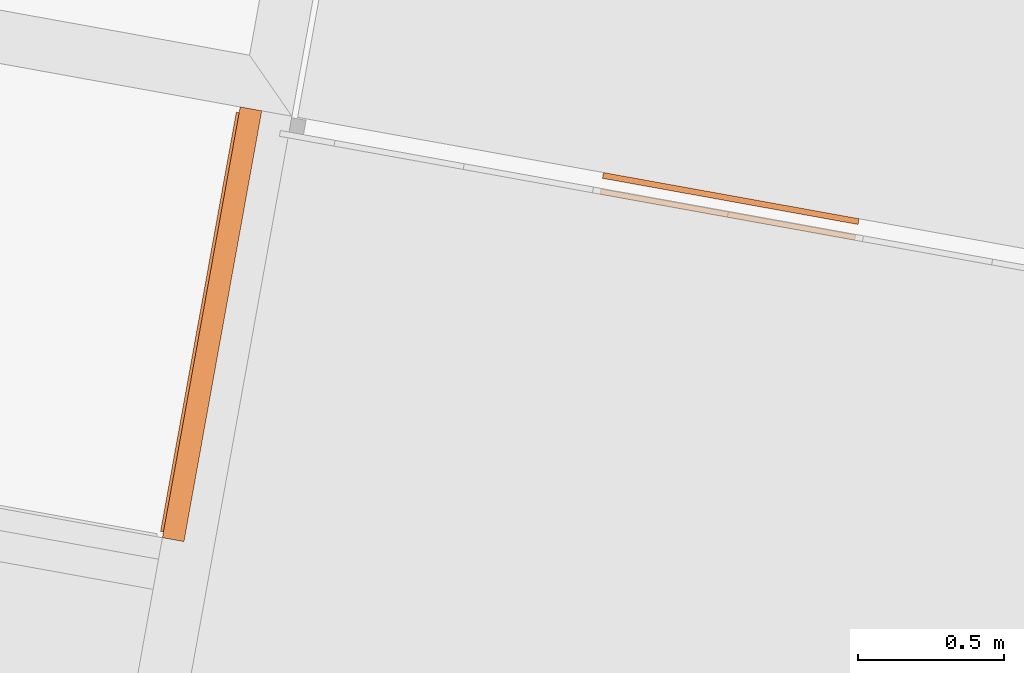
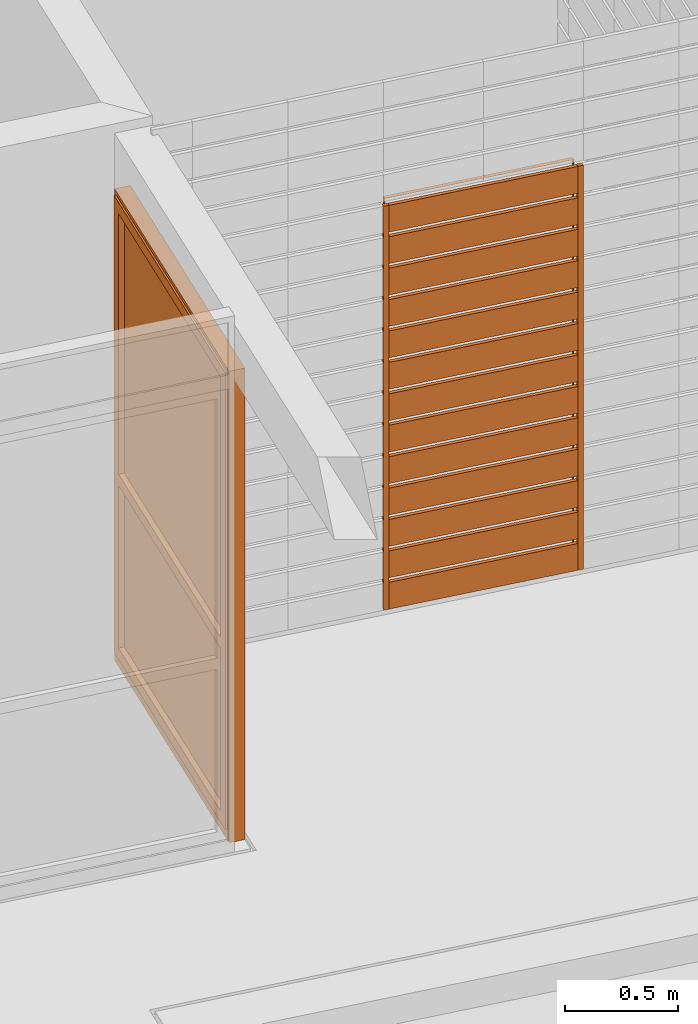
# One storey, part 42 of 52: 3 proxies, 2 elements without a shape of their own.
"""IFC2X3 building model written with IfcOpenShell, lengths in metres."""

import ifcopenshell
import ifcopenshell.guid

model = None  # the IFC model being written
_history = None  # IfcOwnerHistory: only IFC2X3 demands one
_inside = {}  # id of a spatial element -> (the spatial element, [elements in it])
_under = {}  # id of a project, library or spatial element -> (it, [spatial elements below it])
_declared = {}  # id of a project -> (the project, [libraries it declares])
_typed = {}  # id of a type object -> (the type object, [elements of that type])
_made_of = {}  # id of a material, layer set ... -> (it, [elements and type objects made of it])


def new_model(schema):
    """Start an empty IFC model of exactly this schema.

    Asked for "IFC4X3", IfcOpenShell would pick the latest addendum, in which some entities
    have other attributes; the version numbers below select the first issue.
    IFC2X3 requires an IfcOwnerHistory on every rooted entity: one is made here for all.
    """
    global model, _history
    if schema == "IFC4X3":
        model = ifcopenshell.file(schema_version=(4, 3, 0, 0))
    else:
        model = ifcopenshell.file(schema=schema)
    _inside.clear()
    _under.clear()
    _declared.clear()
    _typed.clear()
    _made_of.clear()
    _history = None
    if model.schema == "IFC2X3":
        org = make("IfcOrganization", Name="unknown")
        user = make(
            "IfcPersonAndOrganization",
            ThePerson=make("IfcPerson", FamilyName="unknown"),
            TheOrganization=org,
        )
        app = make(
            "IfcApplication",
            ApplicationDeveloper=org,
            Version="unknown",
            ApplicationFullName="unknown",
            ApplicationIdentifier="unknown",
        )
        _history = make(
            "IfcOwnerHistory",
            OwningUser=user,
            OwningApplication=app,
            ChangeAction="ADDED",
            CreationDate=0,
        )
    return model


def make(cls, **values):
    """One entity of the class cls with the attributes given. An attribute that is None is left unset."""
    return model.create_entity(
        cls, **{name: value for name, value in values.items() if value is not None}
    )


def entity(cls, *values):
    """Any entity or typed value of the class cls, its attributes in the order of the schema. None: left unset."""
    e = model.create_entity(cls)
    for i, value in enumerate(values):
        if value is not None:
            e[i] = value
    return e


def rooted(cls, **values):
    """An entity with a GlobalId (a new one), such as an element, a storey or a relation."""
    return make(cls, GlobalId=ifcopenshell.guid.new(), OwnerHistory=_history, **values)


def si_unit(unit_type, name, prefix=None):
    """IfcSIUnit, for example si_unit("LENGTHUNIT", "METRE", prefix="MILLI")."""
    return make("IfcSIUnit", UnitType=unit_type, Prefix=prefix, Name=name)


def converted_unit(unit_type, name, factor, base, dimensions=None, offset=None):
    """IfcConversionBasedUnit, such as the inch: factor (a typed value) times the base unit."""
    return make(
        "IfcConversionBasedUnit"
        if offset is None
        else "IfcConversionBasedUnitWithOffset",
        ConversionOffset=offset,
        Dimensions=None
        if dimensions is None
        else entity("IfcDimensionalExponents", *dimensions),
        UnitType=unit_type,
        Name=name,
        ConversionFactor=make(
            "IfcMeasureWithUnit", ValueComponent=factor, UnitComponent=base
        ),
    )


def derived_unit(unit_type, elements):
    """IfcDerivedUnit: a product of units, each with its exponent."""
    return make(
        "IfcDerivedUnit",
        Elements=[
            make("IfcDerivedUnitElement", Unit=unit, Exponent=power)
            for unit, power in elements
        ],
        UnitType=unit_type,
    )


def money_unit(currency):
    """IfcMonetaryUnit."""
    return make("IfcMonetaryUnit", Currency=currency)


def assignment(units):
    """IfcUnitAssignment: the units of a project."""
    return None if units is None else make("IfcUnitAssignment", Units=units)


def point(xyz):
    """IfcCartesianPoint."""
    return None if xyz is None else make("IfcCartesianPoint", Coordinates=xyz)


def direction(xyz):
    """IfcDirection."""
    return None if xyz is None else make("IfcDirection", DirectionRatios=xyz)


def frame(location, z_axis=None, x_axis=None):
    """IfcAxis2Placement3D, a coordinate frame: its origin and axes. An axis left out is left unset."""
    return make(
        "IfcAxis2Placement3D",
        Location=point(location),
        Axis=direction(z_axis),
        RefDirection=direction(x_axis),
    )


def origin_with_axes():
    """The frame at (0, 0, 0) with the z axis (0, 0, 1) and the x axis (1, 0, 0) written out."""
    return frame((0.0, 0.0, 0.0), z_axis=(0.0, 0.0, 1.0), x_axis=(1.0, 0.0, 0.0))


def place(relative_to, where):
    """IfcLocalPlacement: puts the frame where relative to a parent placement (None: the world)."""
    return make(
        "IfcLocalPlacement", PlacementRelTo=relative_to, RelativePlacement=where
    )


def context(
    kind, dimensions, precision=None, world=None, true_north=None, identifier=None
):
    """IfcGeometricRepresentationContext, for example the 3D "Model" context."""
    return make(
        "IfcGeometricRepresentationContext",
        ContextIdentifier=identifier,
        ContextType=kind,
        CoordinateSpaceDimension=dimensions,
        Precision=precision,
        WorldCoordinateSystem=world,
        TrueNorth=true_north,
    )


def subcontext(parent, identifier, kind, view, scale=None):
    """IfcGeometricRepresentationSubContext, for example "Body" below "Model"."""
    return make(
        "IfcGeometricRepresentationSubContext",
        ContextIdentifier=identifier,
        ContextType=kind,
        ParentContext=parent,
        TargetScale=scale,
        TargetView=view,
    )


def project(units=None, contexts=None):
    """IfcProject with its units and contexts."""
    return rooted(
        "IfcProject",
        Name="project",
        RepresentationContexts=contexts,
        UnitsInContext=assignment(units),
    )


def spatial(cls, under=None, at=None, **own):
    """A site, building, storey or space (cls), placed at a placement, below another one or the project."""
    s = rooted(cls, ObjectPlacement=at, **own)
    if under is not None:
        _under.setdefault(under.id(), (under, []))[1].append(s)
    return s


def faces_of(points, faces, orient=None, outer=None):
    """IfcFace entities. A face is a list of loops; a loop is a list of indices into points, from 0.

    orient and outer hold one flag for each loop. By default every Orientation is true, the
    first loop of a face is its IfcFaceOuterBound and the others are IfcFaceBound.
    """
    made = []
    for i, loops in enumerate(faces):
        bounds = []
        for j, loop in enumerate(loops):
            is_outer = j == 0 if outer is None else outer[i][j]
            bounds.append(
                make(
                    "IfcFaceOuterBound" if is_outer else "IfcFaceBound",
                    Bound=make("IfcPolyLoop", Polygon=[points[k] for k in loop]),
                    Orientation=True if orient is None else orient[i][j],
                )
            )
        made.append(make("IfcFace", Bounds=bounds))
    return made


def open_shell(faces, orient=None, outer=None):
    """The faces of one IfcOpenShell. surface_model builds it on its shared points."""
    return ("IfcOpenShell", faces, orient, outer)


def faceted_brep(points, faces, orient=None, outer=None, voids=None):
    """IfcFacetedBrep: a solid bounded by flat faces; with voids (closed shells), ...WithVoids."""
    shared = [point(p) for p in points]
    hull = make("IfcClosedShell", CfsFaces=faces_of(shared, faces, orient, outer))
    if voids is None:
        return make("IfcFacetedBrep", Outer=hull)
    return make(
        "IfcFacetedBrepWithVoids",
        Outer=hull,
        Voids=[
            make(cls, CfsFaces=faces_of(shared, fs, o, b)) for cls, fs, o, b in voids
        ],
    )


def surface_model(cls, points, shells):
    """IfcFaceBasedSurfaceModel or IfcShellBasedSurfaceModel (cls): surfaces that need not close."""
    shared = [point(p) for p in points]
    made = [make(c, CfsFaces=faces_of(shared, fs, o, b)) for c, fs, o, b in shells]
    if cls == "IfcFaceBasedSurfaceModel":
        return make(cls, FbsmFaces=made)
    return make(cls, SbsmBoundary=made)


def shape(context_of_items, identifier, shape_type, items):
    """IfcShapeRepresentation: the items that make up one representation, for example the "Body"."""
    return make(
        "IfcShapeRepresentation",
        ContextOfItems=context_of_items,
        RepresentationIdentifier=identifier,
        RepresentationType=shape_type,
        Items=items,
    )


def material(Name=None, Category=None):
    """IfcMaterial."""
    return make("IfcMaterial", Name=Name, Category=Category)


def made_of(thing, what):
    """Note that an element or type object is made of a material, layer set ...; save() writes the relation."""
    if what is not None:
        _made_of.setdefault(what.id(), (what, []))[1].append(thing)
    return thing


def type_object(cls, material=None, **own):
    """A type object (cls), such as IfcWallType, which elements share."""
    return made_of(rooted(cls, **own), material)


def element(
    cls,
    number,
    at=None,
    inside=None,
    cuts=None,
    type_object=None,
    material=None,
    context=None,
    identifier="Body",
    shape_type=None,
    held_by="IfcProductDefinitionShape",
    body=None,
    shapes=None,
    **own,
):
    """One element of the class cls, such as IfcWall. Its Tag is "e" and its number.

    at: its placement. inside: the storey or other place that contains it. cuts: it is an
    opening in that element (IfcRelVoidsElement). A single representation is given by context,
    identifier, shape_type and body (its items); several are given by shapes. held_by: the class
    of the entity that holds the representations. save() writes the other relations.
    """
    e = rooted(cls, Tag="e%d" % number, ObjectPlacement=at, **own)
    if body is not None:
        shapes = [shape(context, identifier, shape_type, body)]
    if shapes is not None:
        e.Representation = make(held_by, Representations=shapes)
    if inside is not None:
        _inside.setdefault(inside.id(), (inside, []))[1].append(e)
    if cuts is not None:
        rooted(
            "IfcRelVoidsElement", RelatingBuildingElement=cuts, RelatedOpeningElement=e
        )
    if type_object is not None:
        _typed.setdefault(type_object.id(), (type_object, []))[1].append(e)
    return made_of(e, material)


def aggregate(whole, parts):
    """IfcRelAggregates: a whole, such as a stair, and the parts it consists of."""
    return rooted("IfcRelAggregates", RelatingObject=whole, RelatedObjects=parts)


def save(model, path):
    """Write the relations noted so far, then the file.

    IfcRelAggregates (storeys below a building ...), IfcRelContainedInSpatialStructure (elements
    in a storey), IfcRelDefinesByType, IfcRelAssociatesMaterial and IfcRelDeclares: one each for
    every whole, place, type object, material and project.
    """
    for whole, parts in _under.values():
        aggregate(whole, parts)
    for where, things in _inside.values():
        rooted(
            "IfcRelContainedInSpatialStructure",
            RelatedElements=things,
            RelatingStructure=where,
        )
    for kind, things in _typed.values():
        rooted("IfcRelDefinesByType", RelatedObjects=things, RelatingType=kind)
    for what, things in _made_of.values():
        rooted("IfcRelAssociatesMaterial", RelatedObjects=things, RelatingMaterial=what)
    for by, libraries in _declared.values():
        rooted("IfcRelDeclares", RelatingContext=by, RelatedDefinitions=libraries)
    model.write(path)


model = new_model("IFC2X3")

# Units and contexts
model_context = context("Model", 3, precision=1e-05, world=origin_with_axes(), true_north=direction((0.0, 1.0)))
body_context = subcontext(model_context, "Body", "Model", "MODEL_VIEW")
ifc_project = project(units=[si_unit("LENGTHUNIT", "METRE"), si_unit("AREAUNIT", "SQUARE_METRE"), si_unit("VOLUMEUNIT", "CUBIC_METRE"), converted_unit("PLANEANGLEUNIT", "DEGREE", entity("IfcPlaneAngleMeasure", 0.0174532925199), si_unit("PLANEANGLEUNIT", "RADIAN"), dimensions=[0, 0, 0, 0, 0, 0, 0]), money_unit("CHF"), converted_unit("TIMEUNIT", "Year", entity("IfcTimeMeasure", 31556926.0), si_unit("TIMEUNIT", "SECOND"), dimensions=[0, 0, 1, 0, 0, 0, 0]), si_unit("MASSUNIT", "GRAM", prefix="KILO"), si_unit("THERMODYNAMICTEMPERATUREUNIT", "DEGREE_CELSIUS"), si_unit("LUMINOUSINTENSITYUNIT", "LUMEN"), si_unit("ENERGYUNIT", "JOULE", prefix="MEGA"), derived_unit("THERMALCONDUCTANCEUNIT", [(si_unit("POWERUNIT", "WATT"), 1), (si_unit("LENGTHUNIT", "METRE"), -1), (si_unit("THERMODYNAMICTEMPERATUREUNIT", "KELVIN"), -1)]), derived_unit("SPECIFICHEATCAPACITYUNIT", [(si_unit("ENERGYUNIT", "JOULE"), 1), (si_unit("MASSUNIT", "GRAM", prefix="KILO"), -1), (si_unit("THERMODYNAMICTEMPERATUREUNIT", "KELVIN"), -1)]), derived_unit("MASSDENSITYUNIT", [(si_unit("MASSUNIT", "GRAM", prefix="KILO"), 1), (si_unit("VOLUMEUNIT", "CUBIC_METRE"), -1)])], contexts=[model_context])

# Site, building, storey
site_placement = place(None, frame((0.0, 0.0, 0.0), z_axis=(0.0, 0.0, 1.0), x_axis=(-0.177771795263, -0.984071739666, 0.0)))
site = spatial("IfcSite", under=ifc_project, at=site_placement, Name="Site", CompositionType="ELEMENT")
building_placement = place(site_placement, origin_with_axes())
building = spatial("IfcBuilding", under=site, at=building_placement, Name="Bâtiment", CompositionType="ELEMENT")
storey_placement = place(building_placement, frame((0.0, 0.0, 3.2), z_axis=(0.0, 0.0, 1.0), x_axis=(1.0, 0.0, 0.0)))
storey = spatial("IfcBuildingStorey", under=building, at=storey_placement, Name="R+1", CompositionType="ELEMENT", Elevation=3.2)

# Proxy
ifc_material_1 = material(Name="Matériau de construction IFC")
building_element_proxy_type_1 = type_object("IfcBuildingElementProxyType", Name="Fenêtre verticale à châssis multiples 21", PredefinedType="NOTDEFINED")
proxy_1_placement = place(storey_placement, frame((142.794840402, -152.372150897, 0.0), z_axis=(0.0, 0.0, 1.0), x_axis=(-1.0, -4.14625823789e-08, 0.0)))
element("IfcBuildingElementProxy", 1, at=proxy_1_placement, inside=storey, type_object=building_element_proxy_type_1, material=ifc_material_1, Name="Baie terrasse_ATTENTE", context=body_context, shape_type="SurfaceModel", body=[
    faceted_brep([(1.48000000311, 0.0749999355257, 2.52), (1.48000000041, 0.00999993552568, 2.52), (1.47000000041, 0.00999993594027, 2.52), (1.47, -6.40597193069e-08, 2.52), (1.5, -6.53035954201e-08, 2.52), (1.50000000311, 0.0749999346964, 2.52), (1.48000000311, 0.0749999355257, 0.07), (1.48000000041, 0.00999993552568, 0.07), (1.47000000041, 0.00999993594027, 0.07), (1.47, -6.40597193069e-08, 0.07), (1.5, -6.53035954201e-08, 0.07), (1.50000000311, 0.0749999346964, 0.07)], [[[0, 1, 2, 3, 4, 5]], [[1, 0, 6, 7]], [[8, 2, 1, 7]], [[2, 8, 9, 3]], [[4, 3, 9, 10]], [[5, 4, 10, 11]], [[6, 0, 5, 11]], [[7, 6, 11, 10, 9, 8]]]),
    faceted_brep([(0.0300000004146, 0.00999999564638, 2.52), (0.0200000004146, 0.00999999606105, 2.52), (0.0200000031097, 0.074999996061, 2.52), (3.1096760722e-09, 0.0749999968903, 2.52), (0.0, -3.10970449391e-09, 2.52), (0.03, -4.35360902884e-09, 2.52), (0.0300000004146, 0.00999999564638, 0.07), (0.0200000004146, 0.00999999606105, 0.07), (0.0200000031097, 0.074999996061, 0.07), (3.1096760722e-09, 0.0749999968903, 0.07), (0.0, -3.10970449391e-09, 0.07), (0.03, -4.35360902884e-09, 0.07)], [[[0, 1, 2, 3, 4, 5]], [[1, 0, 6, 7]], [[8, 2, 1, 7]], [[2, 8, 9, 3]], [[9, 10, 4, 3]], [[10, 11, 5, 4]], [[6, 0, 5, 11]], [[7, 6, 11, 10, 9, 8]]]),
    faceted_brep([(1.48000000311, 0.0749999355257, 2.52), (1.48000000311, 0.0749999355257, 2.53), (0.0200000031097, 0.074999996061, 2.53), (0.0200000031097, 0.074999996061, 2.52), (3.1096760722e-09, 0.0749999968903, 2.52), (3.1096760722e-09, 0.0749999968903, 2.55), (1.50000000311, 0.0749999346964, 2.55), (1.50000000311, 0.0749999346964, 2.52), (1.48000000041, 0.00999993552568, 2.52), (1.48000000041, 0.00999993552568, 2.53), (0.0200000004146, 0.00999999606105, 2.53), (0.0200000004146, 0.00999999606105, 2.52), (0.0300000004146, 0.00999999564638, 2.52), (0.03, -4.35360902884e-09, 2.52), (0.0, -3.10970449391e-09, 2.52), (0.0, -3.10970449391e-09, 2.55), (1.5, -6.53035954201e-08, 2.55), (1.5, -6.53035954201e-08, 2.52), (1.47, -6.40597193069e-08, 2.52), (1.47000000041, 0.00999993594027, 2.52)], [[[0, 1, 2, 3, 4, 5, 6, 7]], [[1, 0, 8, 9]], [[2, 1, 9, 10]], [[3, 2, 10, 11]], [[11, 12, 13, 14, 4, 3]], [[4, 14, 15, 5]], [[5, 15, 16, 6]], [[6, 16, 17, 7]], [[8, 0, 7, 17, 18, 19]], [[12, 11, 10, 9, 8, 19]], [[12, 19, 18, 13]], [[14, 13, 18, 17, 16, 15]]]),
    faceted_brep([(0.0300000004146, 0.00999999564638, 0.07), (0.0200000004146, 0.00999999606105, 0.07), (0.0200000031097, 0.074999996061, 0.07), (3.1096760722e-09, 0.0749999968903, 0.07), (0.0, -3.10970449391e-09, 0.07), (0.03, -4.35360902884e-09, 0.07), (1.47000000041, 0.00999993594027, 0.07), (1.48000000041, 0.00999993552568, 0.07), (1.48000000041, 0.00999993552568, 0.06), (0.0200000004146, 0.00999999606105, 0.06), (0.0200000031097, 0.074999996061, 0.06), (1.48000000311, 0.0749999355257, 0.06), (1.48000000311, 0.0749999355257, 0.07), (1.50000000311, 0.0749999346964, 0.07), (1.50000000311, 0.0749999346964, 0.0), (3.1096760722e-09, 0.0749999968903, 0.0), (0.0, -3.10970449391e-09, 0.0), (1.5, -6.53035954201e-08, 0.07), (1.47, -6.40597193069e-08, 0.07), (1.5, -6.53035954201e-08, 0.0)], [[[0, 1, 2, 3, 4, 5]], [[1, 0, 6, 7, 8, 9]], [[10, 2, 1, 9]], [[11, 12, 13, 14, 15, 3, 2, 10]], [[15, 16, 4, 3]], [[17, 18, 5, 4, 16, 19]], [[6, 0, 5, 18]], [[7, 6, 18, 17, 13, 12]], [[7, 12, 11, 8]], [[11, 10, 9, 8]], [[13, 17, 19, 14]], [[14, 19, 16, 15]]]),
    faceted_brep([(1.42000000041, 0.00999993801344, 1.0), (1.42000000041, 0.00999993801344, 1.06), (1.42000000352, 0.0849999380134, 1.06), (1.42000000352, 0.0849999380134, 1.0), (1.42000000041, 0.00999993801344, 0.12), (1.48000000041, 0.00999993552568, 0.12), (1.48000000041, 0.00999993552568, 2.47), (1.42000000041, 0.00999993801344, 2.47), (1.42000000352, 0.0849999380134, 2.47), (1.48000000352, 0.0849999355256, 2.47), (1.48000000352, 0.0849999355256, 0.12), (1.42000000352, 0.0849999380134, 0.12)], [[[0, 1, 2, 3]], [[0, 4, 5, 6, 7, 1]], [[1, 7, 8, 2]], [[3, 2, 8, 9, 10, 11]], [[4, 0, 3, 11]], [[5, 4, 11, 10]], [[6, 5, 10, 9]], [[7, 6, 9, 8]]]),
    faceted_brep([(0.0800000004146, 0.0099999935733, 0.12), (0.0200000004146, 0.00999999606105, 0.12), (0.0200000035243, 0.084999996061, 0.12), (0.0800000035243, 0.0849999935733, 0.12), (0.0800000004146, 0.0099999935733, 1.0), (0.0800000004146, 0.0099999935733, 1.06), (0.0800000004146, 0.0099999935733, 2.47), (0.0200000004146, 0.00999999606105, 2.47), (0.0200000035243, 0.084999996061, 2.47), (0.0800000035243, 0.0849999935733, 2.47), (0.0800000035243, 0.0849999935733, 1.06), (0.0800000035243, 0.0849999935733, 1.0)], [[[0, 1, 2, 3]], [[0, 4, 5, 6, 7, 1]], [[1, 7, 8, 2]], [[3, 2, 8, 9, 10, 11]], [[4, 0, 3, 11]], [[5, 4, 11, 10]], [[6, 5, 10, 9]], [[7, 6, 9, 8]]]),
    faceted_brep([(0.0200000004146, 0.00999999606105, 0.06), (0.0200000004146, 0.00999999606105, 0.12), (0.0200000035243, 0.084999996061, 0.12), (0.0200000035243, 0.084999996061, 0.06), (1.48000000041, 0.00999993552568, 0.06), (1.48000000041, 0.00999993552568, 0.12), (1.42000000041, 0.00999993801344, 0.12), (0.0800000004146, 0.0099999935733, 0.12), (0.0800000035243, 0.0849999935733, 0.12), (1.42000000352, 0.0849999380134, 0.12), (1.48000000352, 0.0849999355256, 0.12), (1.48000000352, 0.0849999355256, 0.06)], [[[0, 1, 2, 3]], [[0, 4, 5, 6, 7, 1]], [[1, 7, 8, 2]], [[3, 2, 8, 9, 10, 11]], [[4, 0, 3, 11]], [[5, 4, 11, 10]], [[6, 5, 10, 9]], [[7, 6, 9, 8]]]),
    faceted_brep([(1.48000000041, 0.00999993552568, 2.53), (1.48000000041, 0.00999993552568, 2.47), (1.48000000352, 0.0849999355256, 2.47), (1.48000000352, 0.0849999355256, 2.53), (0.0200000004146, 0.00999999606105, 2.53), (0.0200000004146, 0.00999999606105, 2.47), (0.0800000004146, 0.0099999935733, 2.47), (1.42000000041, 0.00999993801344, 2.47), (1.42000000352, 0.0849999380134, 2.47), (0.0800000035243, 0.0849999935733, 2.47), (0.0200000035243, 0.084999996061, 2.47), (0.0200000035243, 0.084999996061, 2.53)], [[[0, 1, 2, 3]], [[0, 4, 5, 6, 7, 1]], [[1, 7, 8, 2]], [[3, 2, 8, 9, 10, 11]], [[4, 0, 3, 11]], [[5, 4, 11, 10]], [[6, 5, 10, 9]], [[7, 6, 9, 8]]]),
    faceted_brep([(0.0800000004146, 0.0099999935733, 1.0), (0.0800000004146, 0.0099999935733, 1.06), (0.0800000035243, 0.0849999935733, 1.06), (0.0800000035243, 0.0849999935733, 1.0), (1.42000000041, 0.00999993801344, 1.0), (1.42000000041, 0.00999993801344, 1.06), (1.42000000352, 0.0849999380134, 1.06), (1.42000000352, 0.0849999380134, 1.0)], [[[0, 1, 2, 3]], [[0, 4, 5, 1]], [[1, 5, 6, 2]], [[3, 2, 6, 7]], [[4, 0, 3, 7]], [[5, 4, 7, 6]]]),
    surface_model("IfcShellBasedSurfaceModel", [(1.42000000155, 0.0374999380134, 1.06), (1.42000000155, 0.0374999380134, 2.47), (0.0800000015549, 0.0374999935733, 2.47), (0.0800000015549, 0.0374999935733, 1.06)], [open_shell([[[0, 1, 2, 3]]])]),
    surface_model("IfcShellBasedSurfaceModel", [(1.42000000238, 0.0574999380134, 1.06), (0.0800000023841, 0.0574999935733, 1.06), (0.0800000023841, 0.0574999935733, 2.47), (1.42000000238, 0.0574999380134, 2.47)], [open_shell([[[0, 1, 2, 3]]])]),
    surface_model("IfcShellBasedSurfaceModel", [(1.42000000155, 0.0374999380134, 0.12), (1.42000000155, 0.0374999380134, 1.0), (0.0800000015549, 0.0374999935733, 1.0), (0.0800000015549, 0.0374999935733, 0.12)], [open_shell([[[0, 1, 2, 3]]])]),
    surface_model("IfcShellBasedSurfaceModel", [(1.42000000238, 0.0574999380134, 0.12), (0.0800000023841, 0.0574999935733, 0.12), (0.0800000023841, 0.0574999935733, 1.0), (1.42000000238, 0.0574999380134, 1.0)], [open_shell([[[0, 1, 2, 3]]])]),
])

# Curtain wall, proxies
curtain_wall_type = type_object("IfcCurtainWallType", Name="Type de mur-rideau", PredefinedType="NOTDEFINED")
curtain_wall_placement = place(storey_placement, frame((0.0, 0.0, -3.2), z_axis=(0.0, 0.0, 1.0), x_axis=(1.0, 0.0, 0.0)))
curtain_wall = element("IfcCurtainWall", 2, at=curtain_wall_placement, inside=storey, type_object=curtain_wall_type, Name="pare-vue CTA")
building_element_proxy_type_2 = type_object("IfcBuildingElementProxyType", Name="470 x 170 x 20", PredefinedType="NOTDEFINED")
proxy_2_placement = place(curtain_wall_placement, origin_with_axes())
proxy_2 = element("IfcBuildingElementProxy", 3, at=proxy_2_placement, type_object=building_element_proxy_type_2, Name="Panel-Main-847")
aggregate(curtain_wall, [proxy_2])
building_element_proxy_type_3 = type_object("IfcBuildingElementProxyType", Name="Elément Modèle 215", PredefinedType="NOTDEFINED")
proxy_3_placement = place(proxy_2_placement, frame((141.35984123, -150.737034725, 4.3175), z_axis=(0.0, 0.0, 1.0), x_axis=(-4.03763638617e-09, 1.0, 0.0)))
proxy_3 = element("IfcBuildingElementProxy", 4, at=proxy_3_placement, type_object=building_element_proxy_type_3, material=ifc_material_1, Name="MOBILIER-001", context=body_context, shape_type="SurfaceModel", body=[
    faceted_brep([(-0.444999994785, 0.065, -1.09249998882), (-0.444999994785, 0.045, -1.09249998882), (-0.444999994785, 0.045, 1.09249998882), (-0.444999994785, 0.065, 1.09249998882), (-0.443999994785, 0.065, -1.09249998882), (-0.443999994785, 0.045, -1.09249998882), (-0.443999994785, 0.045, 1.09149998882), (-0.443999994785, 0.065, 1.09149998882)], [[[0, 1, 2, 3]], [[4, 5, 1, 0]], [[1, 5, 6, 2]], [[3, 2, 6, 7]], [[0, 3, 7, 4]], [[7, 6, 5, 4]]]),
    faceted_brep([(0.44500001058, 0.065, 1.09249998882), (0.44500001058, 0.045, 1.09249998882), (0.44400001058, 0.045, 1.09149998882), (0.44400001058, 0.065, 1.09149998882), (-0.444999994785, 0.065, 1.09249998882), (-0.444999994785, 0.045, 1.09249998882), (-0.443999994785, 0.045, 1.09149998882), (-0.443999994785, 0.065, 1.09149998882)], [[[0, 1, 2, 3]], [[4, 5, 1, 0]], [[1, 5, 6, 2]], [[3, 2, 6, 7]], [[0, 3, 7, 4]], [[7, 6, 5, 4]]]),
    faceted_brep([(0.44500001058, 0.065, -1.09249998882), (0.44500001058, 0.045, -1.09249998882), (0.44400001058, 0.045, -1.09249998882), (0.44400001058, 0.065, -1.09249998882), (0.44500001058, 0.065, 1.09249998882), (0.44500001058, 0.045, 1.09249998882), (0.44400001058, 0.045, 1.09149998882), (0.44400001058, 0.065, 1.09149998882)], [[[0, 1, 2, 3]], [[4, 5, 1, 0]], [[1, 5, 6, 2]], [[3, 2, 6, 7]], [[0, 3, 7, 4]], [[7, 6, 5, 4]]]),
    surface_model("IfcShellBasedSurfaceModel", [(-0.444999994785, 0.045, -1.09249998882), (-0.444999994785, 0.045, 1.09249998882), (-0.443999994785, 0.045, 1.09149998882), (-0.443999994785, 0.045, -1.09249998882)], [open_shell([[[0, 1, 2, 3]]])]),
    surface_model("IfcShellBasedSurfaceModel", [(0.44500001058, 0.045, 1.09249998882), (0.44400001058, 0.045, 1.09149998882), (-0.443999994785, 0.045, 1.09149998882), (-0.444999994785, 0.045, 1.09249998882)], [open_shell([[[0, 1, 2, 3]]])]),
    surface_model("IfcShellBasedSurfaceModel", [(0.44500001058, 0.045, -1.09249998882), (0.44400001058, 0.045, -1.09249998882), (0.44400001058, 0.045, 1.09149998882), (0.44500001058, 0.045, 1.09249998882)], [open_shell([[[0, 1, 2, 3]]])]),
    faceted_brep([(-0.469999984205, 0.00999999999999, -1.09249998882), (-0.469999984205, -0.00999999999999, -1.09249998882), (-0.469999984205, -0.00999999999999, 1.09249998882), (-0.469999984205, 0.00999999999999, 1.09249998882), (-0.444999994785, 0.00999999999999, -1.09249998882), (-0.444999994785, -0.01, -1.09249998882), (-0.444999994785, -0.01, 1.09249998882), (-0.444999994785, 0.00999999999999, 1.09249998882)], [[[0, 1, 2, 3]], [[4, 5, 1, 0]], [[1, 5, 6, 2]], [[3, 2, 6, 7]], [[0, 3, 7, 4]], [[7, 6, 5, 4]]]),
    faceted_brep([(0.47, 0.00999999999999, 1.09249998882), (0.47, -0.00999999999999, 1.09249998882), (0.47, -0.00999999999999, -1.09249998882), (0.47, 0.00999999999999, -1.09249998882), (0.44500001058, 0.00999999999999, 1.09249998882), (0.44500001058, -0.01, 1.09249998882), (0.44500001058, -0.01, -1.09249998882), (0.44500001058, 0.00999999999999, -1.09249998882)], [[[0, 1, 2, 3]], [[4, 5, 1, 0]], [[1, 5, 6, 2]], [[3, 2, 6, 7]], [[0, 3, 7, 4]], [[7, 6, 5, 4]]]),
])
ifc_material_2 = material(Name="Bois - Equarri 02")
building_element_proxy_type_4 = type_object("IfcBuildingElementProxyType", Name="Elément Modèle 216", PredefinedType="NOTDEFINED")
proxy_4_placement = place(proxy_2_placement, frame((141.35984123, -150.737034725, 4.3175), z_axis=(0.0, 0.0, 1.0), x_axis=(-4.03763638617e-09, 1.0, 0.0)))
proxy_4 = element("IfcBuildingElementProxy", 5, at=proxy_4_placement, type_object=building_element_proxy_type_4, material=ifc_material_2, Name="Bois - Equarri 02", context=body_context, shape_type="Brep", body=[
    faceted_brep([(0.44400001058, 0.00833333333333, -1.09249998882), (0.44400001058, -0.01, -1.09249998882), (-0.443999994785, -0.01, -1.09249998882), (-0.443999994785, 0.00833333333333, -1.09249998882), (0.44400001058, 0.00833333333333, -0.947566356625), (0.44400001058, -0.01, -0.947566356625), (-0.443999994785, -0.01, -0.947566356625), (-0.443999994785, 0.00833333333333, -0.947566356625)], [[[0, 1, 2, 3]], [[4, 5, 1, 0]], [[1, 5, 6, 2]], [[3, 2, 6, 7]], [[0, 3, 7, 4]], [[7, 6, 5, 4]]]),
    faceted_brep([(0.44400001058, 0.00833333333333, -0.922577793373), (0.44400001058, -0.01, -0.922577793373), (-0.443999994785, -0.01, -0.922577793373), (-0.443999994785, 0.00833333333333, -0.922577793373), (0.44400001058, 0.00833333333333, -0.777644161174), (0.44400001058, -0.01, -0.777644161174), (-0.443999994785, -0.01, -0.777644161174), (-0.443999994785, 0.00833333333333, -0.777644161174)], [[[0, 1, 2, 3]], [[4, 5, 1, 0]], [[1, 5, 6, 2]], [[3, 2, 6, 7]], [[0, 3, 7, 4]], [[7, 6, 5, 4]]]),
    faceted_brep([(0.44400001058, 0.00833333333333, -0.752655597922), (0.44400001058, -0.01, -0.752655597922), (-0.443999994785, -0.01, -0.752655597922), (-0.443999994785, 0.00833333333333, -0.752655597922), (0.44400001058, 0.00833333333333, -0.607721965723), (0.44400001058, -0.01, -0.607721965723), (-0.443999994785, -0.01, -0.607721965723), (-0.443999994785, 0.00833333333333, -0.607721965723)], [[[0, 1, 2, 3]], [[4, 5, 1, 0]], [[1, 5, 6, 2]], [[3, 2, 6, 7]], [[0, 3, 7, 4]], [[7, 6, 5, 4]]]),
    faceted_brep([(0.44400001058, 0.00833333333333, -0.58273340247), (0.44400001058, -0.01, -0.58273340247), (-0.443999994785, -0.01, -0.58273340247), (-0.443999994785, 0.00833333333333, -0.58273340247), (0.44400001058, 0.00833333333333, -0.437799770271), (0.44400001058, -0.01, -0.437799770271), (-0.443999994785, -0.01, -0.437799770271), (-0.443999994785, 0.00833333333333, -0.437799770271)], [[[0, 1, 2, 3]], [[4, 5, 1, 0]], [[1, 5, 6, 2]], [[3, 2, 6, 7]], [[0, 3, 7, 4]], [[7, 6, 5, 4]]]),
    faceted_brep([(0.44400001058, 0.00833333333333, -0.412811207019), (0.44400001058, -0.01, -0.412811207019), (-0.443999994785, -0.01, -0.412811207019), (-0.443999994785, 0.00833333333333, -0.412811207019), (0.44400001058, 0.00833333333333, -0.26787757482), (0.44400001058, -0.01, -0.26787757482), (-0.443999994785, -0.01, -0.26787757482), (-0.443999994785, 0.00833333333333, -0.26787757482)], [[[0, 1, 2, 3]], [[4, 5, 1, 0]], [[1, 5, 6, 2]], [[3, 2, 6, 7]], [[0, 3, 7, 4]], [[7, 6, 5, 4]]]),
    faceted_brep([(0.44400001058, 0.00833333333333, -0.242889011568), (0.44400001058, -0.01, -0.242889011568), (-0.443999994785, -0.01, -0.242889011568), (-0.443999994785, 0.00833333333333, -0.242889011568), (0.44400001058, 0.00833333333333, -0.0979553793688), (0.44400001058, -0.01, -0.0979553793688), (-0.443999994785, -0.01, -0.0979553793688), (-0.443999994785, 0.00833333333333, -0.0979553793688)], [[[0, 1, 2, 3]], [[4, 5, 1, 0]], [[1, 5, 6, 2]], [[3, 2, 6, 7]], [[0, 3, 7, 4]], [[7, 6, 5, 4]]]),
    faceted_brep([(0.44400001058, 0.00833333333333, -0.0729668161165), (0.44400001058, -0.01, -0.0729668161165), (-0.443999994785, -0.01, -0.0729668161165), (-0.443999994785, 0.00833333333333, -0.0729668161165), (0.44400001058, 0.00833333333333, 0.0719668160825), (0.44400001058, -0.01, 0.0719668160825), (-0.443999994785, -0.01, 0.0719668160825), (-0.443999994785, 0.00833333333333, 0.0719668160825)], [[[0, 1, 2, 3]], [[4, 5, 1, 0]], [[1, 5, 6, 2]], [[3, 2, 6, 7]], [[0, 3, 7, 4]], [[7, 6, 5, 4]]]),
    faceted_brep([(0.44400001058, 0.00833333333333, 0.0969553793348), (0.44400001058, -0.01, 0.0969553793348), (-0.443999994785, -0.01, 0.0969553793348), (-0.443999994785, 0.00833333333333, 0.0969553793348), (0.44400001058, 0.00833333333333, 0.241889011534), (0.44400001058, -0.01, 0.241889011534), (-0.443999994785, -0.01, 0.241889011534), (-0.443999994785, 0.00833333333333, 0.241889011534)], [[[0, 1, 2, 3]], [[4, 5, 1, 0]], [[1, 5, 6, 2]], [[3, 2, 6, 7]], [[0, 3, 7, 4]], [[7, 6, 5, 4]]]),
    faceted_brep([(0.44400001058, 0.00833333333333, 0.266877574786), (0.44400001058, -0.01, 0.266877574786), (-0.443999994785, -0.01, 0.266877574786), (-0.443999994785, 0.00833333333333, 0.266877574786), (0.44400001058, 0.00833333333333, 0.411811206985), (0.44400001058, -0.01, 0.411811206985), (-0.443999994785, -0.01, 0.411811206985), (-0.443999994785, 0.00833333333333, 0.411811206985)], [[[0, 1, 2, 3]], [[4, 5, 1, 0]], [[1, 5, 6, 2]], [[3, 2, 6, 7]], [[0, 3, 7, 4]], [[7, 6, 5, 4]]]),
    faceted_brep([(0.44400001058, 0.00833333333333, 0.436799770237), (0.44400001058, -0.01, 0.436799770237), (-0.443999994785, -0.01, 0.436799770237), (-0.443999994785, 0.00833333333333, 0.436799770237), (0.44400001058, 0.00833333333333, 0.581733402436), (0.44400001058, -0.01, 0.581733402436), (-0.443999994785, -0.01, 0.581733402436), (-0.443999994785, 0.00833333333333, 0.581733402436)], [[[0, 1, 2, 3]], [[4, 5, 1, 0]], [[1, 5, 6, 2]], [[3, 2, 6, 7]], [[0, 3, 7, 4]], [[7, 6, 5, 4]]]),
    faceted_brep([(0.44400001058, 0.00833333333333, 0.606721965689), (0.44400001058, -0.01, 0.606721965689), (-0.443999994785, -0.01, 0.606721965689), (-0.443999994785, 0.00833333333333, 0.606721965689), (0.44400001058, 0.00833333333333, 0.751655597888), (0.44400001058, -0.01, 0.751655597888), (-0.443999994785, -0.01, 0.751655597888), (-0.443999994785, 0.00833333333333, 0.751655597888)], [[[0, 1, 2, 3]], [[4, 5, 1, 0]], [[1, 5, 6, 2]], [[3, 2, 6, 7]], [[0, 3, 7, 4]], [[7, 6, 5, 4]]]),
    faceted_brep([(0.44400001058, 0.00833333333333, 0.77664416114), (0.44400001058, -0.01, 0.77664416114), (-0.443999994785, -0.01, 0.77664416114), (-0.443999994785, 0.00833333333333, 0.77664416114), (0.44400001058, 0.00833333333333, 0.921577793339), (0.44400001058, -0.01, 0.921577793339), (-0.443999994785, -0.01, 0.921577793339), (-0.443999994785, 0.00833333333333, 0.921577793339)], [[[0, 1, 2, 3]], [[4, 5, 1, 0]], [[1, 5, 6, 2]], [[3, 2, 6, 7]], [[0, 3, 7, 4]], [[7, 6, 5, 4]]]),
    faceted_brep([(0.44400001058, 0.00833333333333, 0.946566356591), (0.44400001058, -0.01, 0.946566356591), (-0.443999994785, -0.01, 0.946566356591), (-0.443999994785, 0.00833333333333, 0.946566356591), (0.44400001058, 0.00833333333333, 1.09149998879), (0.44400001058, -0.01, 1.09149998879), (-0.443999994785, -0.01, 1.09149998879), (-0.443999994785, 0.00833333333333, 1.09149998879)], [[[0, 1, 2, 3]], [[4, 5, 1, 0]], [[1, 5, 6, 2]], [[3, 2, 6, 7]], [[0, 3, 7, 4]], [[7, 6, 5, 4]]]),
])
aggregate(proxy_2, [proxy_3, proxy_4])

save(model, "model.ifc")
